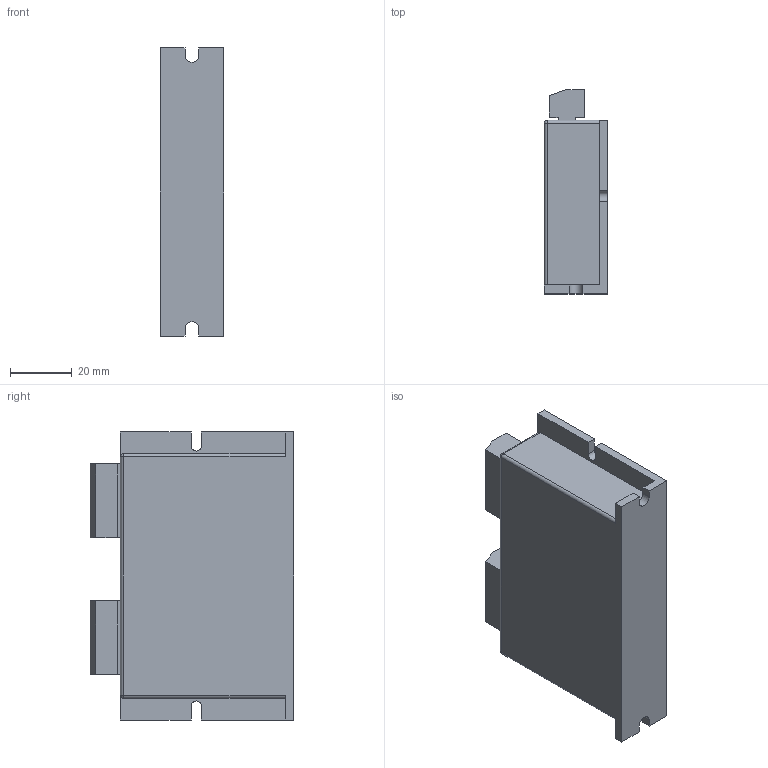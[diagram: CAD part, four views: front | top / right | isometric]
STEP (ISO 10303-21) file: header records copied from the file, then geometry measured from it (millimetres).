
FILE_DESCRIPTION((''),'2;1');
FILE_NAME('S4D','2024-06-23T17:17:50',('jason'),(''),'CREO PARAMETRIC BY PTC INC, 2022073','CREO PARAMETRIC BY PTC INC, 2022073','');
FILE_SCHEMA(('CONFIG_CONTROL_DESIGN'));
Length unit declared in the file: millimetre
Products named in the file (1): S4D
Bounding box: 20.6 x 65.81 x 93 mm (x, y, z)
Volume: 98538.1 mm3; surface area: 18229.2 mm2
Topology: 1 solids, 1 shells, 55 faces, 147 edges, 96 vertices
Faces by surface type: plane 44, cylinder 9, sphere 2
Entity records: 1729 total; most frequent: CARTESIAN_POINT 298, ORIENTED_EDGE 294, DIRECTION 275, EDGE_CURVE 147, VECTOR 129, LINE 129, VERTEX_POINT 96, AXIS2_PLACEMENT_3D 73
